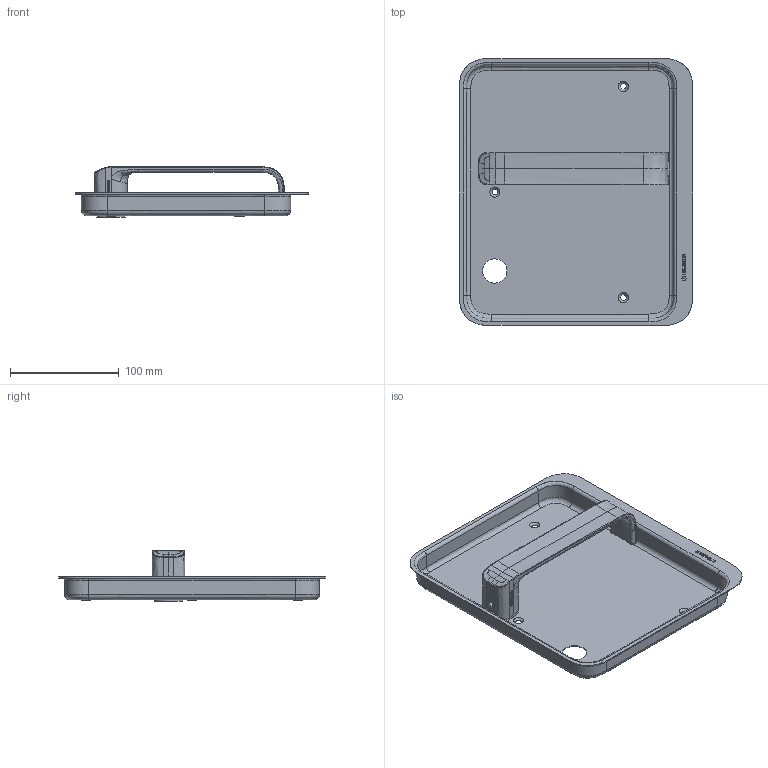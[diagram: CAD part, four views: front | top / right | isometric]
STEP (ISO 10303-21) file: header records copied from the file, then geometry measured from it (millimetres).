
FILE_DESCRIPTION(/* description */ (''),/* implementation_level */ '2;1');
FILE_NAME(/* name */ 'M:\LOC Heusser-Muscheln\Muschel Serie 9\Muschel Serie 9 EN179\S9.20.D4\Heusser-Muschel S9.20.D4.294R.stp',/* time_stamp */ '2020-10-07T16:28:41+02:00',/* author */ ('gm'),/* organization */ (''),/* preprocessor_version */ 'ST-DEVELOPER v16.5',/* originating_system */ 'Autodesk Inventor 2017',/* authorisation */ '');
FILE_SCHEMA (('AUTOMOTIVE_DESIGN { 1 0 10303 214 3 1 1 }'));
Length unit declared in the file: millimetre
Products named in the file (1): S9.20.D4
Bounding box: 214 x 245 x 47.34 mm (x, y, z)
Volume: 118405.4 mm3; surface area: 152908.8 mm2
Topology: 1 solids, 2 shells, 600 faces, 1586 edges, 1034 vertices
Faces by surface type: plane 290, bspline 267, cylinder 25, cone 18
Full cylindrical faces by diameter (mm): 1.7 x2, 4.917 x1, 14.2 x1, 16 x3, 18 x1, 19 x1, 19.1 x1, 22.3 x1, 23 x1, 23.2 x1, 24 x1, 25 x1, 26 x1, 28 x1, 28.6 x1
Entity records: 29556 total; most frequent: CARTESIAN_POINT 15845, ORIENTED_EDGE 3082, DIRECTION 1897, EDGE_CURVE 1541, VERTEX_POINT 1025, LINE 883, VECTOR 883, EDGE_LOOP 698
